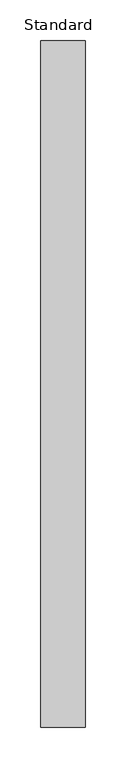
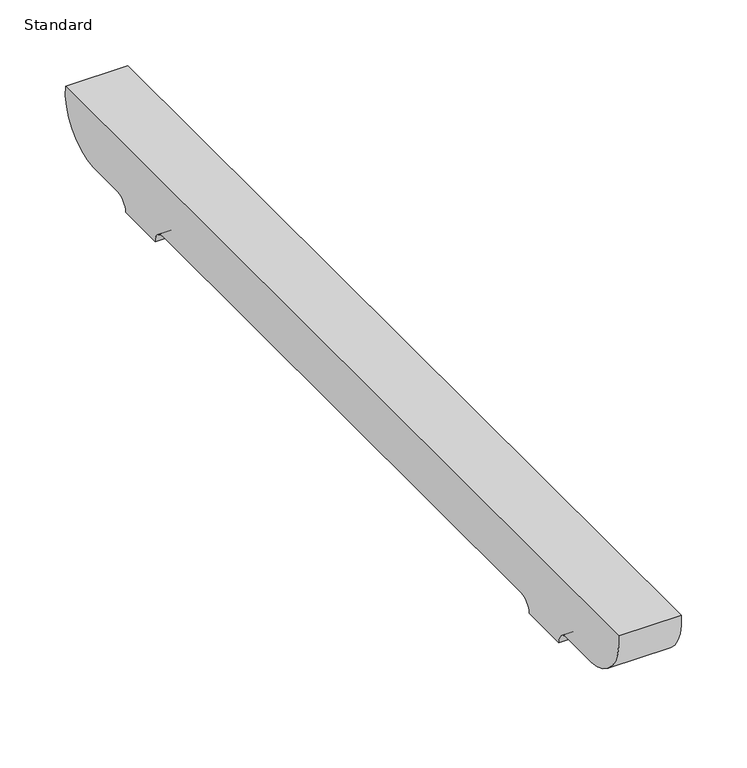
"""IFC4 building model written with IfcOpenShell, lengths in millimetres: furniture geometry, BDG_BossDesign_Tbls_AgentTables4Legs_MiddleCrossBeamNested : Standard."""

from ifc_helpers import new_model, si_unit, point, frame, frame_2d, origin, place, context, project, spatial, polyline, circle_curve, trimmed, segment, composite_curve, outline, extrude, source, transform, mapped, element, save


def standard_96c98aa3(model_context):
    return source(origin(), model_context, "Body", "SweptSolid", [
        extrude(outline(composite_curve([segment(polyline([(380.5450184, 672.0), (342.7000122, 672.0)]), True, "CONTINUOUS"), segment(trimmed(circle_curve(frame_2d((342.7000122, 660.0)), 12.0), [point((342.7000122, 672.0))], [point((330.7000122, 660.0))], True, "CARTESIAN"), True, "CONTINUOUS"), segment(polyline([(330.7000122, 660.0), (285.7000122, 660.0)]), True, "CONTINUOUS"), segment(trimmed(circle_curve(frame_2d((273.7000122, 660.0)), 12.0), [point((285.7000122, 660.0))], [point((273.7000122, 672.0))], True, "CARTESIAN"), True, "CONTINUOUS"), segment(polyline([(273.7000122, 672.0), (-273.7000122, 672.0)]), True, "CONTINUOUS"), segment(trimmed(circle_curve(frame_2d((-273.7000122, 660.0)), 12.0), [point((-273.7000122, 672.0))], [point((-285.7000122, 660.0))], True, "CARTESIAN"), True, "CONTINUOUS"), segment(polyline([(-285.7000122, 660.0), (-330.7000122, 660.0)]), True, "CONTINUOUS"), segment(trimmed(circle_curve(frame_2d((-342.7000122, 660.0)), 12.0), [point((-330.7000122, 660.0))], [point((-342.7000122, 672.0))], True, "CARTESIAN"), True, "CONTINUOUS"), segment(polyline([(-342.7000122, 672.0), (-380.5450184, 672.0)]), True, "CONTINUOUS"), segment(trimmed(circle_curve(frame_2d((-378.2220439, 716.5514119)), 44.6119324), [point((-380.5450184, 672.0))], [point((-422.5, 722.0))], False, "CARTESIAN"), True, "CONTINUOUS"), segment(polyline([(-422.5, 722.0), (422.5, 722.0)]), True, "CONTINUOUS"), segment(trimmed(circle_curve(frame_2d((378.2220439, 716.5514119)), 44.6119324), [point((422.5, 722.0))], [point((380.5450184, 672.0))], False, "CARTESIAN"), True, "CONTINUOUS")], self_intersect=False)), frame((-27.5, 0.0, 0.0), z_axis=(1.0, 0.0, 0.0), x_axis=(0.0, 1.0, 0.0)), (0.0, 0.0, 1.0), 55.0),
    ])


if __name__ == "__main__":
    model = new_model("IFC4")
    model_context = context("Model", 3, world=origin())
    ifc_project = project(units=[si_unit("LENGTHUNIT", "METRE", prefix="MILLI")], contexts=[model_context])
    site = spatial("IfcSite", under=ifc_project)
    building = spatial("IfcBuilding", under=site)
    placement = place(None, origin())
    standard_shape = standard_96c98aa3(model_context)
    element("IfcFurniture", 1, ObjectType="BDG_BossDesign_Tbls_AgentTables4Legs_MiddleCrossBeamNested : Standard", at=placement, inside=building, context=model_context, shape_type="MappedRepresentation", body=[
        mapped(standard_shape, transform((0.0, 0.0, 0.0), x_axis=(1.0, 0.0, 0.0), y_axis=(0.0, 1.0, 0.0), z_axis=(0.0, 0.0, 1.0))),
    ])
    save(model, "model.ifc")
